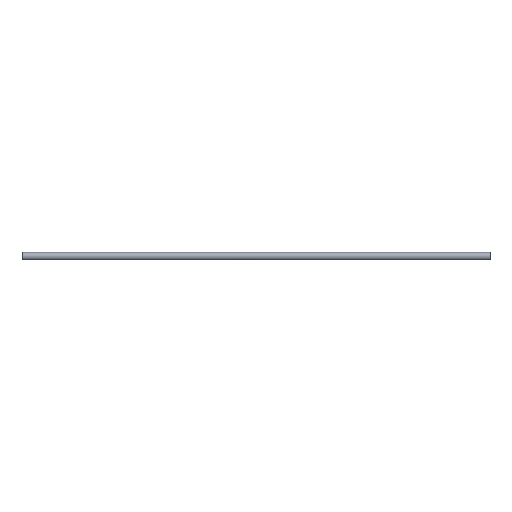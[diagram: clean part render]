
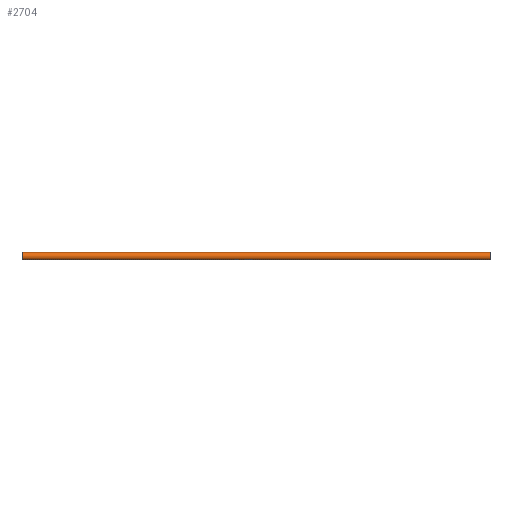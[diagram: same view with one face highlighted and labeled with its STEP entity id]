
A CAD part, top view. The second image highlights one B-rep face of the part: STEP entity #2704.
In plain terms, the highlighted cylindrical face has radius 25 mm (diameter 50 mm), a partial arc.
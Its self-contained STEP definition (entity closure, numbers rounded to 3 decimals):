
#1296=CIRCLE('',#2571,25.);
#1297=CIRCLE('',#2572,25.);
#1356=ORIENTED_EDGE('',*,*,#1824,.F.);
#1357=ORIENTED_EDGE('',*,*,#1825,.T.);
#1358=ORIENTED_EDGE('',*,*,#1826,.T.);
#1359=ORIENTED_EDGE('',*,*,#1827,.T.);
#1608=VECTOR('',#2044,1.);
#1609=VECTOR('',#2047,1.);
#1674=LINE('',#2319,#1608);
#1675=LINE('',#2323,#1609);
#1740=VERTEX_POINT('',#2317);
#1741=VERTEX_POINT('',#2318);
#1742=VERTEX_POINT('',#2320);
#1743=VERTEX_POINT('',#2322);
#1824=EDGE_CURVE('',#1740,#1741,#1674,.T.);
#1825=EDGE_CURVE('',#1740,#1742,#1296,.T.);
#1826=EDGE_CURVE('',#1742,#1743,#1675,.T.);
#1827=EDGE_CURVE('',#1743,#1741,#1297,.T.);
#1950=EDGE_LOOP('',(#1356,#1357,#1358,#1359));
#1996=FACE_BOUND('',#1950,.T.);
#2042=DIRECTION('',(1.,0.,0.));
#2043=DIRECTION('',(0.,-0.86,-0.51));
#2044=DIRECTION('',(3100.,0.,0.));
#2045=DIRECTION('',(1.,0.,0.));
#2046=DIRECTION('',(0.,-21.5,-12.757));
#2047=DIRECTION('',(3100.,0.,0.));
#2048=DIRECTION('',(-1.,0.,0.));
#2049=DIRECTION('',(0.,-21.5,-12.757));
#2316=CARTESIAN_POINT('',(0.,-25.,25.));
#2317=CARTESIAN_POINT('',(0.,-46.5,12.243));
#2318=CARTESIAN_POINT('',(3100.,-46.5,12.243));
#2319=CARTESIAN_POINT('',(0.,-46.5,12.243));
#2320=CARTESIAN_POINT('',(0.,-46.5,37.757));
#2321=CARTESIAN_POINT('',(0.,-25.,25.));
#2322=CARTESIAN_POINT('',(3100.,-46.5,37.757));
#2323=CARTESIAN_POINT('',(0.,-46.5,37.757));
#2324=CARTESIAN_POINT('',(3100.,-25.,25.));
#2570=AXIS2_PLACEMENT_3D('',#2316,#2042,#2043);
#2571=AXIS2_PLACEMENT_3D('',#2321,#2045,#2046);
#2572=AXIS2_PLACEMENT_3D('',#2324,#2048,#2049);
#2674=CYLINDRICAL_SURFACE('',#2570,25.);
#2704=ADVANCED_FACE('',(#1996),#2674,.T.);
